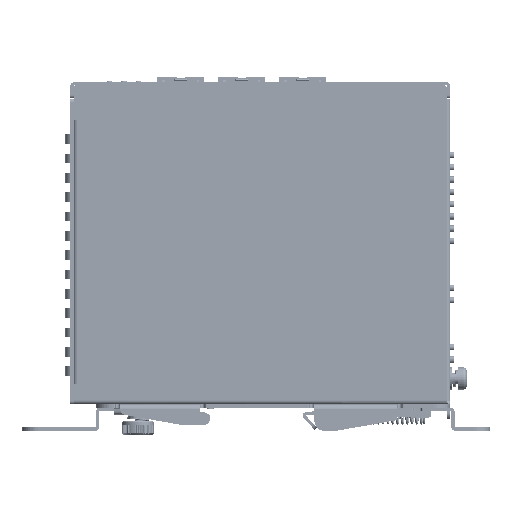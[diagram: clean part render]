
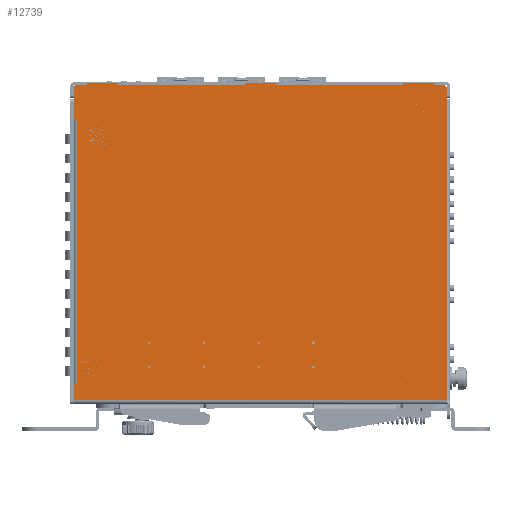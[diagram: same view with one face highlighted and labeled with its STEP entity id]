
A CAD part, left-side view. The second image highlights one B-rep face of the part: STEP entity #12739.
In plain terms, the highlighted planar face has unit normal (-1, 0, 0).
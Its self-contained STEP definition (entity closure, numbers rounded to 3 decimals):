
#88=DIRECTION('',(0.,-1.,0.));
#89=VECTOR('',#88,39.4);
#90=CARTESIAN_POINT('',(-1.,44.2,0.));
#91=LINE('',#90,#89);
#92=DIRECTION('',(0.,0.,-1.));
#93=VECTOR('',#92,0.8);
#94=CARTESIAN_POINT('',(-1.,4.8,0.8));
#95=LINE('',#94,#93);
#96=DIRECTION('',(0.,1.,0.));
#97=VECTOR('',#96,9.6);
#98=CARTESIAN_POINT('',(-1.,-4.8,0.8));
#99=LINE('',#98,#97);
#100=DIRECTION('',(0.,0.,1.));
#101=VECTOR('',#100,0.8);
#102=CARTESIAN_POINT('',(-1.,-4.8,0.));
#103=LINE('',#102,#101);
#104=DIRECTION('',(0.,-1.,0.));
#105=VECTOR('',#104,39.4);
#106=CARTESIAN_POINT('',(-1.,-4.8,0.));
#107=LINE('',#106,#105);
#108=DIRECTION('',(0.,0.,-1.));
#109=VECTOR('',#108,0.8);
#110=CARTESIAN_POINT('',(-1.,-44.2,0.8));
#111=LINE('',#110,#109);
#112=DIRECTION('',(0.,1.,0.));
#113=VECTOR('',#112,9.6);
#114=CARTESIAN_POINT('',(-1.,-53.8,0.8));
#115=LINE('',#114,#113);
#116=DIRECTION('',(0.,0.,1.));
#117=VECTOR('',#116,0.8);
#118=CARTESIAN_POINT('',(-1.,-53.8,0.));
#119=LINE('',#118,#117);
#120=DIRECTION('',(0.,-1.,0.));
#121=VECTOR('',#120,3.5);
#122=CARTESIAN_POINT('',(-1.,-53.8,0.));
#123=LINE('',#122,#121);
#124=CARTESIAN_POINT('',(-1.,-57.3,-0.5));
#125=DIRECTION('',(-1.,0.,0.));
#126=DIRECTION('',(0.,-1.,0.));
#127=AXIS2_PLACEMENT_3D('',#124,#125,#126);
#129=DIRECTION('',(0.,0.,-1.));
#130=VECTOR('',#129,3.7);
#131=CARTESIAN_POINT('',(-1.,-57.8,-0.5));
#132=LINE('',#131,#130);
#133=DIRECTION('',(0.,1.,0.));
#134=VECTOR('',#133,1.2);
#135=CARTESIAN_POINT('',(-1.,56.8,-92.8));
#136=LINE('',#135,#134);
#137=DIRECTION('',(0.,1.,0.));
#138=VECTOR('',#137,1.);
#139=CARTESIAN_POINT('',(-1.,56.8,-10.7));
#140=LINE('',#139,#138);
#141=DIRECTION('',(0.,0.,1.));
#142=VECTOR('',#141,6.5);
#143=CARTESIAN_POINT('',(-1.,57.8,-10.7));
#144=LINE('',#143,#142);
#145=DIRECTION('',(0.,0.,-1.));
#146=VECTOR('',#145,3.7);
#147=CARTESIAN_POINT('',(-1.,57.8,-0.5));
#148=LINE('',#147,#146);
#149=CARTESIAN_POINT('',(-1.,57.3,-0.5));
#150=DIRECTION('',(-1.,0.,0.));
#151=DIRECTION('',(0.,0.,1.));
#152=AXIS2_PLACEMENT_3D('',#149,#150,#151);
#154=DIRECTION('',(0.,-1.,0.));
#155=VECTOR('',#154,3.5);
#156=CARTESIAN_POINT('',(-1.,57.3,0.));
#157=LINE('',#156,#155);
#158=DIRECTION('',(0.,0.,-1.));
#159=VECTOR('',#158,0.8);
#160=CARTESIAN_POINT('',(-1.,53.8,0.8));
#161=LINE('',#160,#159);
#162=DIRECTION('',(0.,1.,0.));
#163=VECTOR('',#162,9.6);
#164=CARTESIAN_POINT('',(-1.,44.2,0.8));
#165=LINE('',#164,#163);
#166=DIRECTION('',(0.,0.,1.));
#167=VECTOR('',#166,0.8);
#168=CARTESIAN_POINT('',(-1.,44.2,0.));
#169=LINE('',#168,#167);
#219=DIRECTION('',(0.,0.,1.));
#220=VECTOR('',#219,82.1);
#221=CARTESIAN_POINT('',(-1.,56.8,-92.8));
#222=LINE('',#221,#220);
#294=DIRECTION('',(0.,0.,-1.));
#295=VECTOR('',#294,5.);
#296=CARTESIAN_POINT('',(-1.,58.,-92.8));
#297=LINE('',#296,#295);
#332=DIRECTION('',(0.,1.,0.));
#333=VECTOR('',#332,115.8);
#334=CARTESIAN_POINT('',(-1.,-57.8,-97.8));
#335=LINE('',#334,#333);
#6369=DIRECTION('',(0.,0.,-1.));
#6370=VECTOR('',#6369,93.6);
#6371=CARTESIAN_POINT('',(-1.,-57.8,-4.2));
#6372=LINE('',#6371,#6370);
#9582=CARTESIAN_POINT('',(-1.,58.,-97.8));
#9584=VERTEX_POINT('',#9582);
#9585=CARTESIAN_POINT('',(-1.,-57.8,-97.8));
#9586=VERTEX_POINT('',#9585);
#9601=CARTESIAN_POINT('',(-1.,-57.8,-4.2));
#9602=VERTEX_POINT('',#9601);
#9625=CARTESIAN_POINT('',(-1.,56.8,-92.8));
#9626=CARTESIAN_POINT('',(-1.,58.,-92.8));
#9627=VERTEX_POINT('',#9625);
#9628=VERTEX_POINT('',#9626);
#9633=CARTESIAN_POINT('',(-1.,56.8,-10.7));
#9634=VERTEX_POINT('',#9633);
#9645=CARTESIAN_POINT('',(-1.,57.3,0.));
#9646=VERTEX_POINT('',#9645);
#9647=CARTESIAN_POINT('',(-1.,57.8,-0.5));
#9648=VERTEX_POINT('',#9647);
#9653=CARTESIAN_POINT('',(-1.,-57.8,-0.5));
#9654=VERTEX_POINT('',#9653);
#9655=CARTESIAN_POINT('',(-1.,-57.3,0.));
#9656=VERTEX_POINT('',#9655);
#9981=CARTESIAN_POINT('',(-1.,57.8,-10.7));
#9982=CARTESIAN_POINT('',(-1.,57.8,-4.2));
#9983=VERTEX_POINT('',#9981);
#9984=VERTEX_POINT('',#9982);
#12350=CARTESIAN_POINT('',(-1.,44.2,0.));
#12351=CARTESIAN_POINT('',(-1.,44.2,0.8));
#12352=VERTEX_POINT('',#12350);
#12353=VERTEX_POINT('',#12351);
#12354=CARTESIAN_POINT('',(-1.,53.8,0.8));
#12355=VERTEX_POINT('',#12354);
#12356=CARTESIAN_POINT('',(-1.,53.8,0.));
#12357=VERTEX_POINT('',#12356);
#12366=CARTESIAN_POINT('',(-1.,-53.8,0.));
#12367=CARTESIAN_POINT('',(-1.,-53.8,0.8));
#12368=VERTEX_POINT('',#12366);
#12369=VERTEX_POINT('',#12367);
#12370=CARTESIAN_POINT('',(-1.,-44.2,0.8));
#12371=VERTEX_POINT('',#12370);
#12372=CARTESIAN_POINT('',(-1.,-44.2,0.));
#12373=VERTEX_POINT('',#12372);
#12382=CARTESIAN_POINT('',(-1.,-4.8,0.));
#12383=CARTESIAN_POINT('',(-1.,-4.8,0.8));
#12384=VERTEX_POINT('',#12382);
#12385=VERTEX_POINT('',#12383);
#12386=CARTESIAN_POINT('',(-1.,4.8,0.8));
#12387=VERTEX_POINT('',#12386);
#12388=CARTESIAN_POINT('',(-1.,4.8,0.));
#12389=VERTEX_POINT('',#12388);
#12685=CARTESIAN_POINT('',(-1.,0.,0.));
#12686=DIRECTION('',(1.,0.,0.));
#12687=DIRECTION('',(0.,-1.,0.));
#12688=AXIS2_PLACEMENT_3D('',#12685,#12686,#12687);
#12689=PLANE('',#12688);
#12691=ORIENTED_EDGE('',*,*,#12690,.T.);
#12693=ORIENTED_EDGE('',*,*,#12692,.F.);
#12695=ORIENTED_EDGE('',*,*,#12694,.F.);
#12697=ORIENTED_EDGE('',*,*,#12696,.F.);
#12698=ORIENTED_EDGE('',*,*,#12675,.T.);
#12700=ORIENTED_EDGE('',*,*,#12699,.F.);
#12702=ORIENTED_EDGE('',*,*,#12701,.F.);
#12704=ORIENTED_EDGE('',*,*,#12703,.F.);
#12706=ORIENTED_EDGE('',*,*,#12705,.T.);
#12708=ORIENTED_EDGE('',*,*,#12707,.F.);
#12710=ORIENTED_EDGE('',*,*,#12709,.T.);
#12712=ORIENTED_EDGE('',*,*,#12711,.T.);
#12714=ORIENTED_EDGE('',*,*,#12713,.T.);
#12716=ORIENTED_EDGE('',*,*,#12715,.F.);
#12718=ORIENTED_EDGE('',*,*,#12717,.F.);
#12720=ORIENTED_EDGE('',*,*,#12719,.T.);
#12722=ORIENTED_EDGE('',*,*,#12721,.T.);
#12724=ORIENTED_EDGE('',*,*,#12723,.T.);
#12726=ORIENTED_EDGE('',*,*,#12725,.F.);
#12728=ORIENTED_EDGE('',*,*,#12727,.F.);
#12730=ORIENTED_EDGE('',*,*,#12729,.T.);
#12732=ORIENTED_EDGE('',*,*,#12731,.F.);
#12734=ORIENTED_EDGE('',*,*,#12733,.F.);
#12736=ORIENTED_EDGE('',*,*,#12735,.F.);
#12737=EDGE_LOOP('',(#12691,#12693,#12695,#12697,#12698,#12700,#12702,#12704,
#12706,#12708,#12710,#12712,#12714,#12716,#12718,#12720,#12722,#12724,#12726,
#12728,#12730,#12732,#12734,#12736));
#12738=FACE_OUTER_BOUND('',#12737,.F.);
#128=CIRCLE('',#127,0.5);
#153=CIRCLE('',#152,0.5);
#12675=EDGE_CURVE('',#12384,#12373,#107,.T.);
#12690=EDGE_CURVE('',#12352,#12389,#91,.T.);
#12692=EDGE_CURVE('',#12387,#12389,#95,.T.);
#12694=EDGE_CURVE('',#12385,#12387,#99,.T.);
#12696=EDGE_CURVE('',#12384,#12385,#103,.T.);
#12699=EDGE_CURVE('',#12371,#12373,#111,.T.);
#12701=EDGE_CURVE('',#12369,#12371,#115,.T.);
#12703=EDGE_CURVE('',#12368,#12369,#119,.T.);
#12705=EDGE_CURVE('',#12368,#9656,#123,.T.);
#12707=EDGE_CURVE('',#9654,#9656,#128,.T.);
#12709=EDGE_CURVE('',#9654,#9602,#132,.T.);
#12711=EDGE_CURVE('',#9602,#9586,#6372,.T.);
#12713=EDGE_CURVE('',#9586,#9584,#335,.T.);
#12715=EDGE_CURVE('',#9628,#9584,#297,.T.);
#12717=EDGE_CURVE('',#9627,#9628,#136,.T.);
#12719=EDGE_CURVE('',#9627,#9634,#222,.T.);
#12721=EDGE_CURVE('',#9634,#9983,#140,.T.);
#12723=EDGE_CURVE('',#9983,#9984,#144,.T.);
#12725=EDGE_CURVE('',#9648,#9984,#148,.T.);
#12727=EDGE_CURVE('',#9646,#9648,#153,.T.);
#12729=EDGE_CURVE('',#9646,#12357,#157,.T.);
#12731=EDGE_CURVE('',#12355,#12357,#161,.T.);
#12733=EDGE_CURVE('',#12353,#12355,#165,.T.);
#12735=EDGE_CURVE('',#12352,#12353,#169,.T.);
#12739=ADVANCED_FACE('',(#12738),#12689,.F.);
